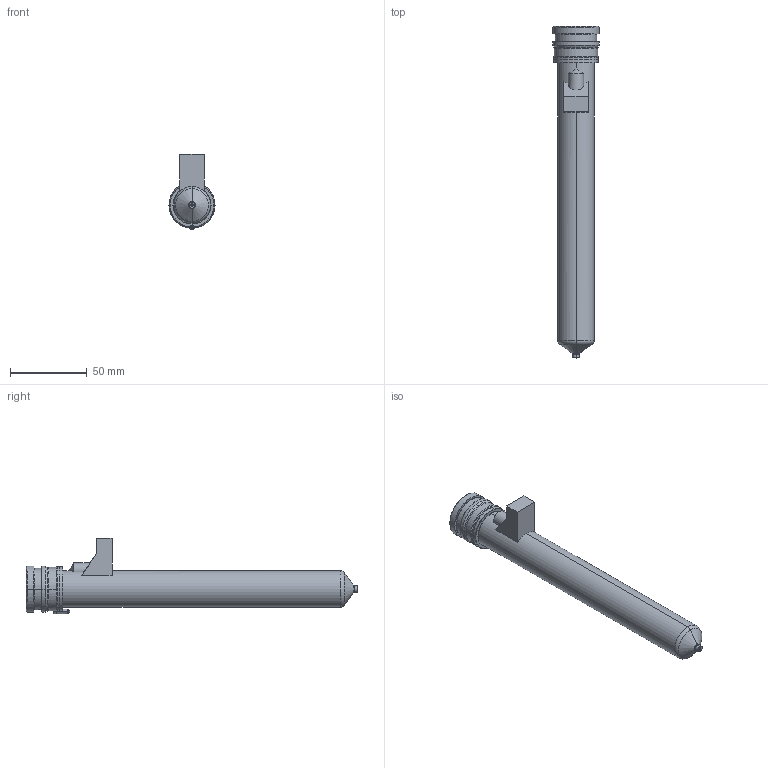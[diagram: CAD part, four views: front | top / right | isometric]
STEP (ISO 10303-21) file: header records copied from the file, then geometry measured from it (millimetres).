
FILE_DESCRIPTION((''),'2;1');
FILE_NAME('MPN-10-29-VP4-196-M','2026-02-05T12:59:53',('UPTIO'),('Thermoplay S.p.A.'),'CREO PARAMETRIC BY PTC INC, 2023494','CREO PARAMETRIC BY PTC INC, 2023494','');
FILE_SCHEMA(('CONFIG_CONTROL_DESIGN','SHAPE_APPEARANCE_LAYERS_GROUPS'));
Length unit declared in the file: millimetre
Products named in the file (1): MPN-10-29-VP4-196-M
Bounding box: 30 x 216.1 x 49 mm (x, y, z)
Volume: 67021.2 mm3; surface area: 69091.9 mm2
Topology: 3 solids, 5 shells, 570 faces, 1471 edges, 906 vertices
Faces by surface type: cylinder 177, plane 156, bspline 92, torus 69, cone 66, sphere 6, extrusion 4
Entity records: 30849 total; most frequent: CARTESIAN_POINT 14506, ORIENTED_EDGE 2928, DIRECTION 2618, EDGE_CURVE 1464, AXIS2_PLACEMENT_3D 1035, VERTEX_POINT 906, EDGE_LOOP 598, FACE_OUTER_BOUND 570
